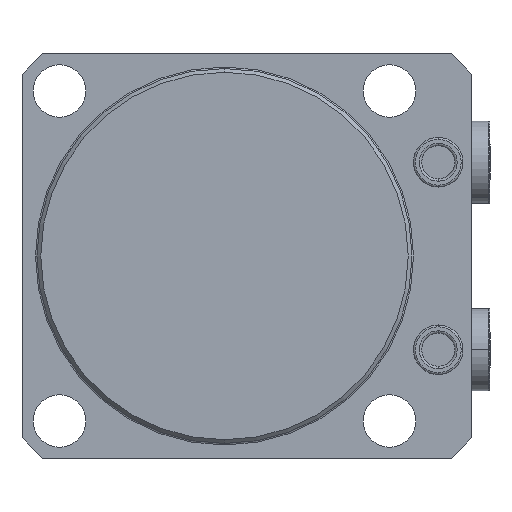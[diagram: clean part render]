
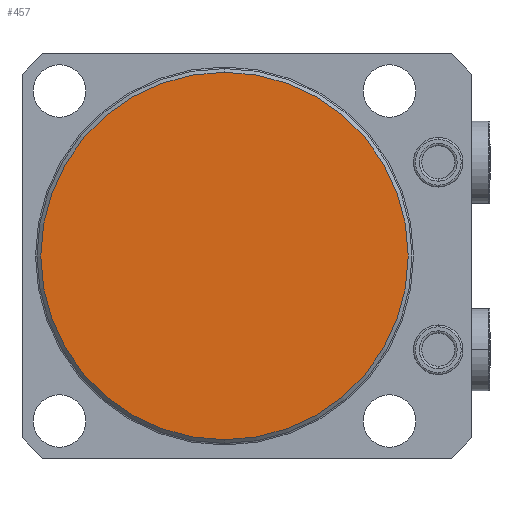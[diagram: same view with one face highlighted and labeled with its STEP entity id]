
A CAD part, front view. The second image highlights one B-rep face of the part: STEP entity #457.
In plain terms, the highlighted planar face has unit normal (0, -1, 0) as drawn and (0, 1, 0) by its records, which use the part's own axes.
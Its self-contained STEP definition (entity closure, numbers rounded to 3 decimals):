
#203=PLANE('',#4674);
#457=ADVANCED_FACE('',(#831),#203,.T.);
#831=FACE_OUTER_BOUND('',#1083,.F.);
#1083=EDGE_LOOP('',(#1931,#1932));
#1399=CIRCLE('',#4628,49.);
#1422=CIRCLE('',#4673,49.);
#1931=ORIENTED_EDGE('',*,*,#3525,.T.);
#1932=ORIENTED_EDGE('',*,*,#3412,.T.);
#2980=VERTEX_POINT('',#6786);
#2981=VERTEX_POINT('',#6787);
#3412=EDGE_CURVE('',#2980,#2981,#1399,.T.);
#3525=EDGE_CURVE('',#2981,#2980,#1422,.T.);
#4628=AXIS2_PLACEMENT_3D('',#6785,#5353,#5354);
#4673=AXIS2_PLACEMENT_3D('',#7106,#5505,#5506);
#4674=AXIS2_PLACEMENT_3D('',#7107,#5507,#5508);
#5353=DIRECTION('',(0.,-1.,0.));
#5354=DIRECTION('',(0.,0.,1.));
#5505=DIRECTION('',(0.,-1.,0.));
#5506=DIRECTION('',(0.,0.,1.));
#5507=DIRECTION('',(0.,1.,0.));
#5508=DIRECTION('',(0.,0.,1.));
#6785=CARTESIAN_POINT('',(0.,-65.,0.));
#6786=CARTESIAN_POINT('',(0.,-65.,-49.));
#6787=CARTESIAN_POINT('',(0.,-65.,49.));
#7106=CARTESIAN_POINT('',(0.,-65.,0.));
#7107=CARTESIAN_POINT('',(0.,-65.,0.));
